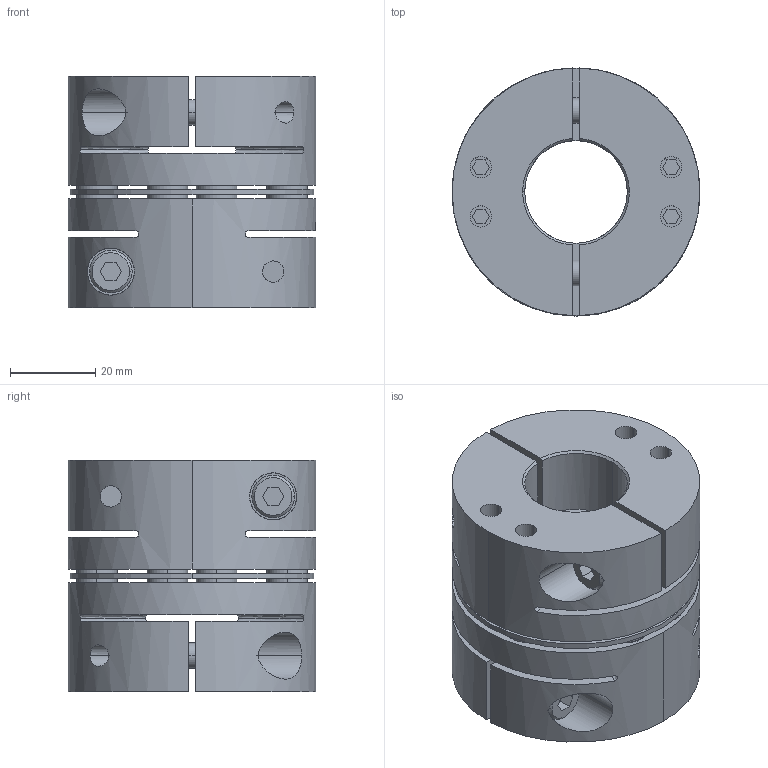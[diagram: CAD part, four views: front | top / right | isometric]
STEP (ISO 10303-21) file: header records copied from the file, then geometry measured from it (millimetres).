
FILE_DESCRIPTION((''),'2;1');
FILE_NAME('TAS-58C-24×25.stp','2022-11-14T22:25:02',(''),(''),'AutoCAD STEP 2000i','AutoCAD 2000i',', , ');
FILE_SCHEMA(('CONFIG_CONTROL_DESIGN'));
Length unit declared in the file: millimetre
Products named in the file (7): TAS-58C-22×22; 忣兜1; TA58C-22-2; CAP-M6×20; TA58C-22; TA58C-12-2; TA58C-12
Assembly tree (9 placements, depth 3):
  TAS-58C-22×22
    忣兜1
    TA58C-22-2
      CAP-M6×20
    TA58C-22
      CAP-M6×20
    TA58C-12-2
      CAP-M6×20
    TA58C-12
      CAP-M6×20
Bounding box: 58 x 58 x 54.25 mm (x, y, z)
Volume: 99214.8 mm3; surface area: 40701.9 mm2
Topology: 1 solids, 1 shells, 360 faces, 903 edges, 645 vertices
Faces by surface type: plane 160, cylinder 148, cone 36, bspline 16
Entity records: 12875 total; most frequent: CARTESIAN_POINT 3843, DIRECTION 1936, ORIENTED_EDGE 1720, EDGE_CURVE 860, AXIS2_PLACEMENT_3D 735, VERTEX_POINT 564, VECTOR 466, LINE 466
